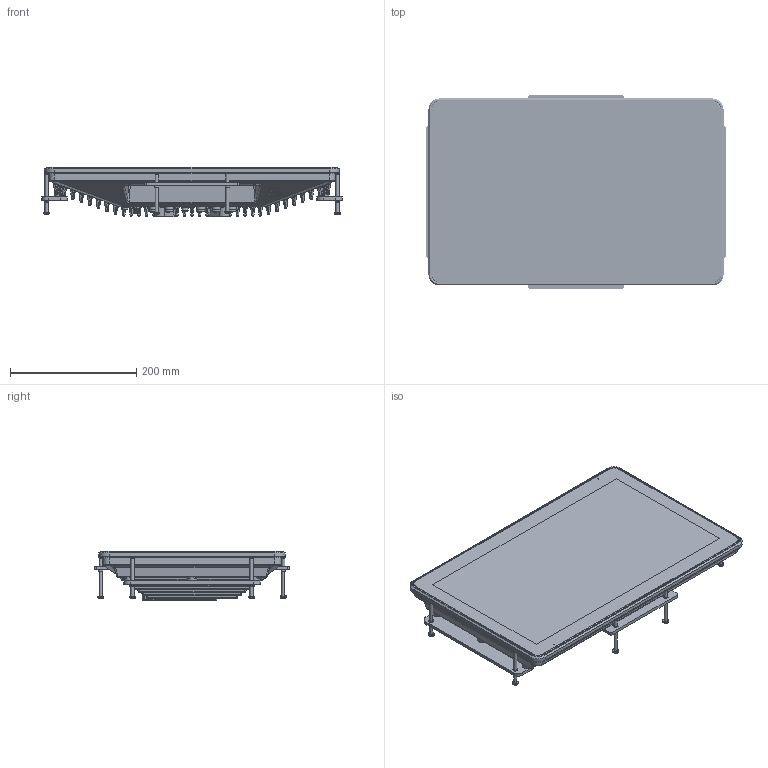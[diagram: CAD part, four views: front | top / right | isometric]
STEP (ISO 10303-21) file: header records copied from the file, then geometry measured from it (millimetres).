
FILE_DESCRIPTION(/* description */ (''),/* implementation_level */ '2;1');
FILE_NAME(/* name */ 'D:\Modelle vereinfacht\notion.A\notion.A3\18,5 Zoll\778-21979\778-21979-00\778-21979-00_EXTERN.stp',/* time_stamp */ '2023-06-23T10:33:25+02:00',/* author */ ('Blessing'),/* organization */ (''),/* preprocessor_version */ 'ST-DEVELOPER v18.1',/* originating_system */ 'Autodesk Inventor 2021',/* authorisation */ '');
FILE_SCHEMA (('AUTOMOTIVE_DESIGN { 1 0 10303 214 3 1 1 }'));
Products named in the file (3): Baugruppe4; 778-21979-00_; 778-90175_EXTERN
Assembly tree (2 placements, depth 2):
  Baugruppe4
    778-21979-00_
    778-90175_EXTERN
Bounding box: 475 x 308 x 78.8 mm (x, y, z)
Volume: 6325327.5 mm3; surface area: 902642.7 mm2
Topology: 6 solids, 75 shells, 6341 faces, 16443 edges, 10483 vertices
Faces by surface type: plane 2485, bspline 1713, cylinder 1458, cone 433, sphere 144, torus 108
Full cylindrical faces by diameter (mm): 1.05 x27, 1.1 x2, 1.5 x4, 2 x1, 2.013 x2, 2.17 x4, 2.459 x12, 2.5 x2, 2.8 x4, 2.845 x2, 3.2 x2, 3.242 x7, 3.4 x2, 4 x6, 4.134 x8, 4.5 x6, 4.6 x2, 4.7 x2, 4.917 x8, 5 x25, 5.3 x1, 5.5 x8, 5.54 x2, 5.7 x1, 5.9 x2, 6.6 x8, 6.9 x1, 7.11 x8, 7.2 x8, 7.4 x1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
Entity records: 302909 total; most frequent: CARTESIAN_POINT 153600, ORIENTED_EDGE 32652, DIRECTION 25783, EDGE_CURVE 16326, VERTEX_POINT 10483, AXIS2_PLACEMENT_3D 8891, LINE 8001, VECTOR 8001
